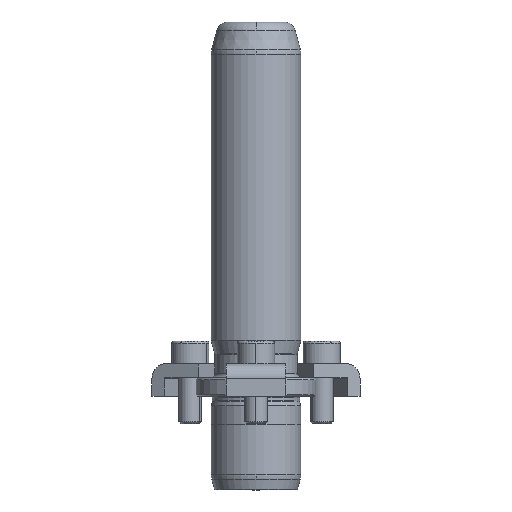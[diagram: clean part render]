
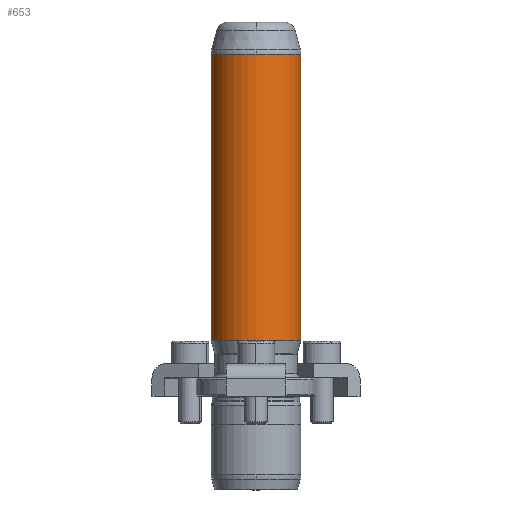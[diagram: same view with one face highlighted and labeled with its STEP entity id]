
A CAD part, front view. The second image highlights one B-rep face of the part: STEP entity #653.
In plain terms, the highlighted cylindrical face has radius 12 mm (diameter 24 mm), a partial arc.
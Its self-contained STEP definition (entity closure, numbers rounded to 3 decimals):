
#566=CARTESIAN_POINT('',(0.0,-12.,91.342));
#567=VERTEX_POINT('',#566);
#594=CARTESIAN_POINT('',(-12.0,0.,91.342));
#595=VERTEX_POINT('',#594);
#603=CARTESIAN_POINT('',(0.0,0.,91.342));
#604=DIRECTION('',(0.0,0.0,1.0));
#605=DIRECTION('',(1.0,0.0,0.0));
#606=AXIS2_PLACEMENT_3D('',#603,#604,#605);
#607=CIRCLE('',#606,12.0);
#608=EDGE_CURVE('',#595,#567,#607,.T.);
#613=CARTESIAN_POINT('',(0.0,0.,53.171));
#614=DIRECTION('',(0.0,0.,1.0));
#615=DIRECTION('',(1.0,0.0,0.0));
#616=AXIS2_PLACEMENT_3D('',#613,#614,#615);
#617=CYLINDRICAL_SURFACE('',#616,12.0);
#618=CARTESIAN_POINT('',(12.0,0.,91.342));
#619=VERTEX_POINT('',#618);
#620=CARTESIAN_POINT('',(12.0,0.,15.0));
#621=VERTEX_POINT('',#620);
#622=CARTESIAN_POINT('',(12.0,0.,91.342));
#623=DIRECTION('',(0.0,0.0,-1.0));
#624=VECTOR('',#623,76.342);
#625=LINE('',#622,#624);
#626=EDGE_CURVE('',#619,#621,#625,.T.);
#627=ORIENTED_EDGE('',*,*,#626,.F.);
#628=CARTESIAN_POINT('',(0.0,0.,91.342));
#629=DIRECTION('',(0.0,0.0,1.0));
#630=DIRECTION('',(1.0,0.0,0.0));
#631=AXIS2_PLACEMENT_3D('',#628,#629,#630);
#632=CIRCLE('',#631,12.0);
#633=EDGE_CURVE('',#567,#619,#632,.T.);
#634=ORIENTED_EDGE('',*,*,#633,.F.);
#635=ORIENTED_EDGE('',*,*,#608,.F.);
#636=CARTESIAN_POINT('',(-12.,0.,15.));
#637=VERTEX_POINT('',#636);
#638=CARTESIAN_POINT('',(-12.0,0.,91.342));
#639=DIRECTION('',(0.0,0.0,-1.0));
#640=VECTOR('',#639,76.342);
#641=LINE('',#638,#640);
#642=EDGE_CURVE('',#595,#637,#641,.T.);
#643=ORIENTED_EDGE('',*,*,#642,.T.);
#644=CARTESIAN_POINT('',(0.0,0.,15.0));
#645=DIRECTION('',(0.0,0.0,1.0));
#646=DIRECTION('',(1.0,0.0,0.0));
#647=AXIS2_PLACEMENT_3D('',#644,#645,#646);
#648=CIRCLE('',#647,12.0);
#649=EDGE_CURVE('',#637,#621,#648,.T.);
#650=ORIENTED_EDGE('',*,*,#649,.T.);
#651=EDGE_LOOP('',(#627,#634,#635,#643,#650));
#652=FACE_OUTER_BOUND('',#651,.T.);
#653=ADVANCED_FACE('',(#652),#617,.T.);
